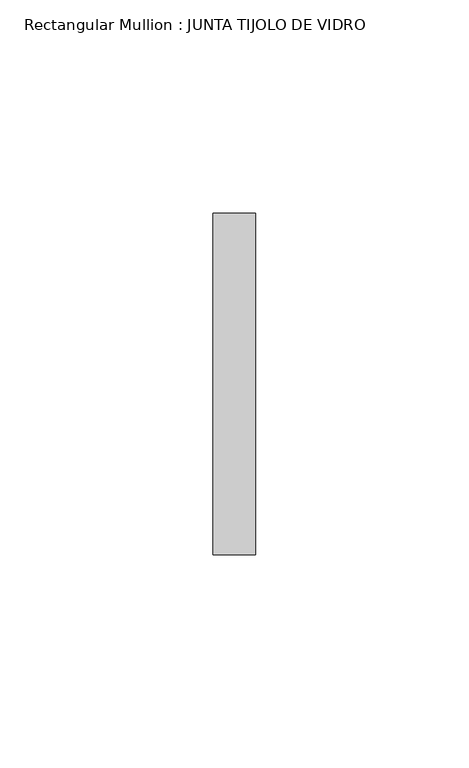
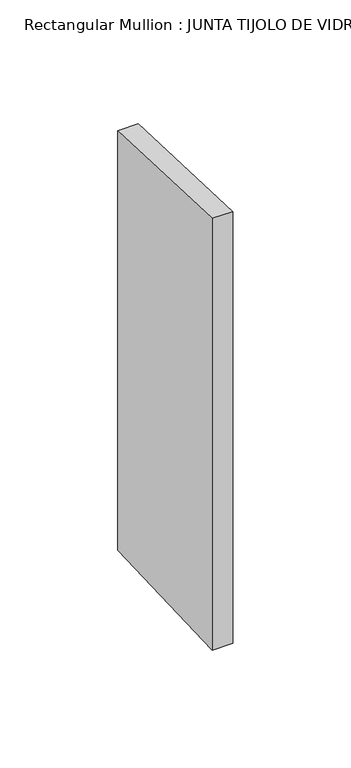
"""IFC4 building model written with IfcOpenShell, lengths in millimetres: member geometry, Rectangular Mullion : JUNTA TIJOLO DE VIDRO."""

import ifcopenshell
import ifcopenshell.guid

model = None  # the IFC model being written
_history = None  # IfcOwnerHistory: only IFC2X3 demands one
_inside = {}  # id of a spatial element -> (the spatial element, [elements in it])
_under = {}  # id of a project, library or spatial element -> (it, [spatial elements below it])
_declared = {}  # id of a project -> (the project, [libraries it declares])
_typed = {}  # id of a type object -> (the type object, [elements of that type])
_made_of = {}  # id of a material, layer set ... -> (it, [elements and type objects made of it])


def new_model(schema):
    """Start an empty IFC model of exactly this schema.

    Asked for "IFC4X3", IfcOpenShell would pick the latest addendum, in which some entities
    have other attributes; the version numbers below select the first issue.
    IFC2X3 requires an IfcOwnerHistory on every rooted entity: one is made here for all.
    """
    global model, _history
    if schema == "IFC4X3":
        model = ifcopenshell.file(schema_version=(4, 3, 0, 0))
    else:
        model = ifcopenshell.file(schema=schema)
    _inside.clear()
    _under.clear()
    _declared.clear()
    _typed.clear()
    _made_of.clear()
    _history = None
    if model.schema == "IFC2X3":
        org = make("IfcOrganization", Name="unknown")
        user = make(
            "IfcPersonAndOrganization",
            ThePerson=make("IfcPerson", FamilyName="unknown"),
            TheOrganization=org,
        )
        app = make(
            "IfcApplication",
            ApplicationDeveloper=org,
            Version="unknown",
            ApplicationFullName="unknown",
            ApplicationIdentifier="unknown",
        )
        _history = make(
            "IfcOwnerHistory",
            OwningUser=user,
            OwningApplication=app,
            ChangeAction="ADDED",
            CreationDate=0,
        )
    return model


def make(cls, **values):
    """One entity of the class cls with the attributes given. An attribute that is None is left unset."""
    return model.create_entity(
        cls, **{name: value for name, value in values.items() if value is not None}
    )


def rooted(cls, **values):
    """An entity with a GlobalId (a new one), such as an element, a storey or a relation."""
    return make(cls, GlobalId=ifcopenshell.guid.new(), OwnerHistory=_history, **values)


def si_unit(unit_type, name, prefix=None):
    """IfcSIUnit, for example si_unit("LENGTHUNIT", "METRE", prefix="MILLI")."""
    return make("IfcSIUnit", UnitType=unit_type, Prefix=prefix, Name=name)


def assignment(units):
    """IfcUnitAssignment: the units of a project."""
    return None if units is None else make("IfcUnitAssignment", Units=units)


def point(xyz):
    """IfcCartesianPoint."""
    return None if xyz is None else make("IfcCartesianPoint", Coordinates=xyz)


def direction(xyz):
    """IfcDirection."""
    return None if xyz is None else make("IfcDirection", DirectionRatios=xyz)


def frame(location, z_axis=None, x_axis=None):
    """IfcAxis2Placement3D, a coordinate frame: its origin and axes. An axis left out is left unset."""
    return make(
        "IfcAxis2Placement3D",
        Location=point(location),
        Axis=direction(z_axis),
        RefDirection=direction(x_axis),
    )


def origin():
    """The frame at (0, 0, 0) with its axes left unset."""
    return frame((0.0, 0.0, 0.0))


def place(relative_to, where):
    """IfcLocalPlacement: puts the frame where relative to a parent placement (None: the world)."""
    return make(
        "IfcLocalPlacement", PlacementRelTo=relative_to, RelativePlacement=where
    )


def context(
    kind, dimensions, precision=None, world=None, true_north=None, identifier=None
):
    """IfcGeometricRepresentationContext, for example the 3D "Model" context."""
    return make(
        "IfcGeometricRepresentationContext",
        ContextIdentifier=identifier,
        ContextType=kind,
        CoordinateSpaceDimension=dimensions,
        Precision=precision,
        WorldCoordinateSystem=world,
        TrueNorth=true_north,
    )


def project(units=None, contexts=None):
    """IfcProject with its units and contexts."""
    return rooted(
        "IfcProject",
        Name="project",
        RepresentationContexts=contexts,
        UnitsInContext=assignment(units),
    )


def spatial(cls, under=None, at=None, **own):
    """A site, building, storey or space (cls), placed at a placement, below another one or the project."""
    s = rooted(cls, ObjectPlacement=at, **own)
    if under is not None:
        _under.setdefault(under.id(), (under, []))[1].append(s)
    return s


def polyline(points):
    """IfcPolyline through the points."""
    return make("IfcPolyline", Points=[point(p) for p in points])


def outline(outer, holes=None, kind="AREA"):
    """IfcArbitraryClosedProfileDef: a profile drawn as a closed curve; with holes, ...WithVoids."""
    if holes is None:
        return make("IfcArbitraryClosedProfileDef", ProfileType=kind, OuterCurve=outer)
    return make(
        "IfcArbitraryProfileDefWithVoids",
        ProfileType=kind,
        OuterCurve=outer,
        InnerCurves=holes,
    )


def extrude(swept, where, along, depth):
    """IfcExtrudedAreaSolid: the profile swept, set in the frame where, extruded along a direction by depth."""
    return make(
        "IfcExtrudedAreaSolid",
        SweptArea=swept,
        Position=where,
        ExtrudedDirection=direction(along),
        Depth=depth,
    )


def shape(context_of_items, identifier, shape_type, items):
    """IfcShapeRepresentation: the items that make up one representation, for example the "Body"."""
    return make(
        "IfcShapeRepresentation",
        ContextOfItems=context_of_items,
        RepresentationIdentifier=identifier,
        RepresentationType=shape_type,
        Items=items,
    )


def source(mapping_origin, context_of_items, identifier, shape_type, items):
    """IfcRepresentationMap: a shape defined once, which mapped items show again and again."""
    return make(
        "IfcRepresentationMap",
        MappingOrigin=mapping_origin,
        MappedRepresentation=shape(context_of_items, identifier, shape_type, items),
    )


def transform(
    local_origin,
    x_axis=None,
    y_axis=None,
    z_axis=None,
    scale=None,
    scale2=None,
    scale3=None,
    uniform=True,
):
    """IfcCartesianTransformationOperator3D, or its non-uniform kind. x_axis, y_axis, z_axis: its Axis1, 2, 3."""
    if uniform:
        return make(
            "IfcCartesianTransformationOperator3D",
            Axis1=direction(x_axis),
            Axis2=direction(y_axis),
            LocalOrigin=point(local_origin),
            Scale=scale,
            Axis3=direction(z_axis),
        )
    return make(
        "IfcCartesianTransformationOperator3DnonUniform",
        Axis1=direction(x_axis),
        Axis2=direction(y_axis),
        LocalOrigin=point(local_origin),
        Scale=scale,
        Axis3=direction(z_axis),
        Scale2=scale2,
        Scale3=scale3,
    )


def mapped(mapping_source, mapping_target):
    """IfcMappedItem: shows the shape of a source again, moved by a transform."""
    return make(
        "IfcMappedItem", MappingSource=mapping_source, MappingTarget=mapping_target
    )


def made_of(thing, what):
    """Note that an element or type object is made of a material, layer set ...; save() writes the relation."""
    if what is not None:
        _made_of.setdefault(what.id(), (what, []))[1].append(thing)
    return thing


def element(
    cls,
    number,
    at=None,
    inside=None,
    cuts=None,
    type_object=None,
    material=None,
    context=None,
    identifier="Body",
    shape_type=None,
    held_by="IfcProductDefinitionShape",
    body=None,
    shapes=None,
    **own,
):
    """One element of the class cls, such as IfcWall. Its Tag is "e" and its number.

    at: its placement. inside: the storey or other place that contains it. cuts: it is an
    opening in that element (IfcRelVoidsElement). A single representation is given by context,
    identifier, shape_type and body (its items); several are given by shapes. held_by: the class
    of the entity that holds the representations. save() writes the other relations.
    """
    e = rooted(cls, Tag="e%d" % number, ObjectPlacement=at, **own)
    if body is not None:
        shapes = [shape(context, identifier, shape_type, body)]
    if shapes is not None:
        e.Representation = make(held_by, Representations=shapes)
    if inside is not None:
        _inside.setdefault(inside.id(), (inside, []))[1].append(e)
    if cuts is not None:
        rooted(
            "IfcRelVoidsElement", RelatingBuildingElement=cuts, RelatedOpeningElement=e
        )
    if type_object is not None:
        _typed.setdefault(type_object.id(), (type_object, []))[1].append(e)
    return made_of(e, material)


def aggregate(whole, parts):
    """IfcRelAggregates: a whole, such as a stair, and the parts it consists of."""
    return rooted("IfcRelAggregates", RelatingObject=whole, RelatedObjects=parts)


def save(model, path):
    """Write the relations noted so far, then the file.

    IfcRelAggregates (storeys below a building ...), IfcRelContainedInSpatialStructure (elements
    in a storey), IfcRelDefinesByType, IfcRelAssociatesMaterial and IfcRelDeclares: one each for
    every whole, place, type object, material and project.
    """
    for whole, parts in _under.values():
        aggregate(whole, parts)
    for where, things in _inside.values():
        rooted(
            "IfcRelContainedInSpatialStructure",
            RelatedElements=things,
            RelatingStructure=where,
        )
    for kind, things in _typed.values():
        rooted("IfcRelDefinesByType", RelatedObjects=things, RelatingType=kind)
    for what, things in _made_of.values():
        rooted("IfcRelAssociatesMaterial", RelatedObjects=things, RelatingMaterial=what)
    for by, libraries in _declared.values():
        rooted("IfcRelDeclares", RelatingContext=by, RelatedDefinitions=libraries)
    model.write(path)


def rectangular_mullion_junta_tijolo_de_vidro_72e2d02b(model_context):
    return source(origin(), model_context, "Body", "SweptSolid", [
        extrude(outline(polyline([(-40.0, 1.5506987), (40.0, -1.5506987), (40.0, -218.7738047), (-40.0, -221.8399565), (-40.0, 1.5506987)])), frame((-5.0, 0.0, 0.0), z_axis=(1.0, 0.0, 0.0), x_axis=(0.0, 1.0, 0.0)), (0.0, 0.0, 1.0), 10.0),
    ])


if __name__ == "__main__":
    model = new_model("IFC4")
    model_context = context("Model", 3, world=origin())
    ifc_project = project(units=[si_unit("LENGTHUNIT", "METRE", prefix="MILLI")], contexts=[model_context])
    site = spatial("IfcSite", under=ifc_project)
    building = spatial("IfcBuilding", under=site)
    placement = place(None, origin())
    rectangular_mullion_junta_tijolo_de_vidro_shape = rectangular_mullion_junta_tijolo_de_vidro_72e2d02b(model_context)
    element("IfcMember", 1, ObjectType="Rectangular Mullion : JUNTA TIJOLO DE VIDRO", at=placement, inside=building, context=model_context, shape_type="MappedRepresentation", body=[
        mapped(rectangular_mullion_junta_tijolo_de_vidro_shape, transform((0.0, 0.0, 0.0), x_axis=(1.0, 0.0, 0.0), y_axis=(0.0, 1.0, 0.0), z_axis=(0.0, 0.0, 1.0))),
    ])
    save(model, "model.ifc")
